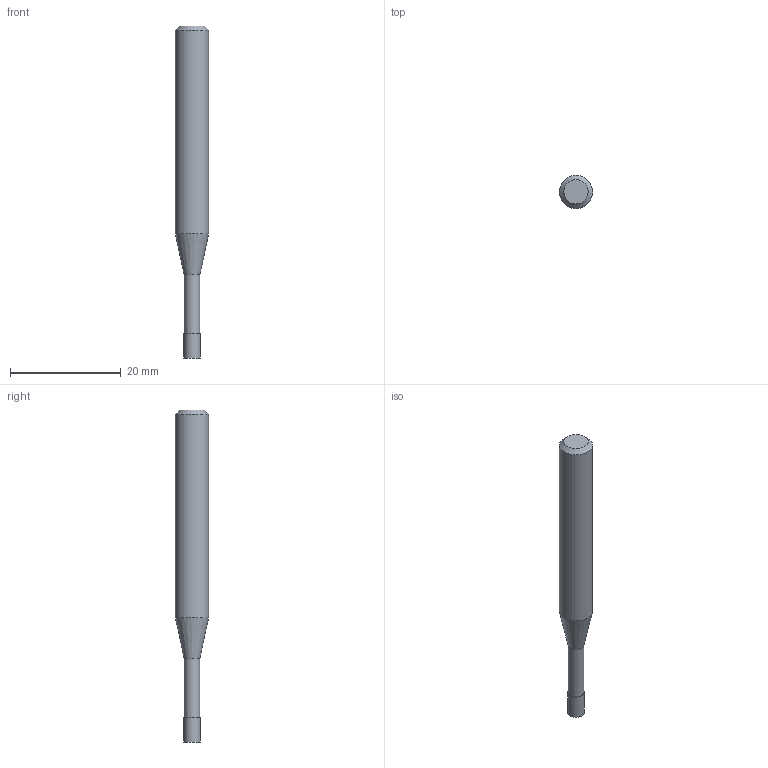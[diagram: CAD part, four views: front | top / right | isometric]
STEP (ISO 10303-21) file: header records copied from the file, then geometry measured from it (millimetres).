
FILE_DESCRIPTION((''),'2;1');
FILE_NAME('C:\Users\nsx150\AppData\Local\Temp\Mastercam 2021\EUJSUNXURU\TEMP.step','2021-04-22T10:28:00',(''),(''),'STEP Write','Mastercam 2021 ... CNC Software, Inc.','');
FILE_SCHEMA(('AUTOMOTIVE_DESIGN'));
Length unit declared in the file: millimetre
Products named in the file (1): None
Bounding box: 6 x 6 x 60 mm (x, y, z)
Volume: 1274.9 mm3; surface area: 989.4 mm2
Topology: 2 solids, 2 shells, 9 faces, 12 edges, 7 vertices
Faces by surface type: plane 4, cylinder 3, cone 2
Full cylindrical faces by diameter (mm): 2.85 x1, 3 x1, 6 x1
Entity records: 211 total; most frequent: DIRECTION 36, CARTESIAN_POINT 25, AXIS2_PLACEMENT_3D 18, ORIENTED_EDGE 14, EDGE_LOOP 14, STYLED_ITEM 12, ADVANCED_FACE 9, FACE_BOUND 8
